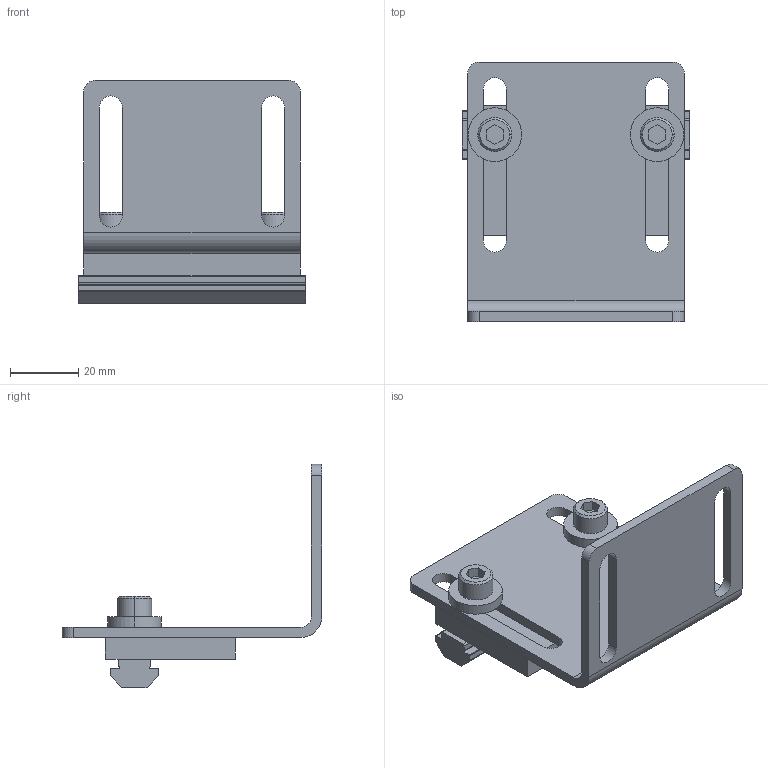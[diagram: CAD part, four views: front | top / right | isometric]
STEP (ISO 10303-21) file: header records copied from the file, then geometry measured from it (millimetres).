
FILE_DESCRIPTION((''),'2;1');
FILE_NAME('20155X_ASM','2016-05-25T',('adam.dellomodarme'),(''),'PRO/ENGINEER BY PARAMETRIC TECHNOLOGY CORPORATION, 2012420','PRO/ENGINEER BY PARAMETRIC TECHNOLOGY CORPORATION, 2012420','');
FILE_SCHEMA(('CONFIG_CONTROL_DESIGN'));
Length unit declared in the file: inch
Products named in the file (3): 201347_1; MOUNTING; 20155X_ASM
Assembly tree (2 placements, depth 2):
  20155X_ASM
    201347_1
    MOUNTING
Bounding box: 66.67 x 76.2 x 65.48 mm (x, y, z)
Volume: 43529.4 mm3; surface area: 25774.5 mm2
Topology: 2 solids, 2 shells, 120 faces, 294 edges, 192 vertices
Faces by surface type: plane 64, cylinder 48, cone 8
Entity records: 3656 total; most frequent: DIRECTION 648, CARTESIAN_POINT 611, ORIENTED_EDGE 588, EDGE_CURVE 294, AXIS2_PLACEMENT_3D 229, VERTEX_POINT 192, VECTOR 190, LINE 190
